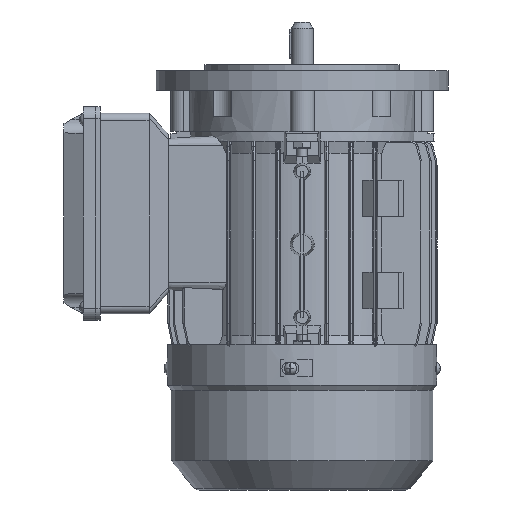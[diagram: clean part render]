
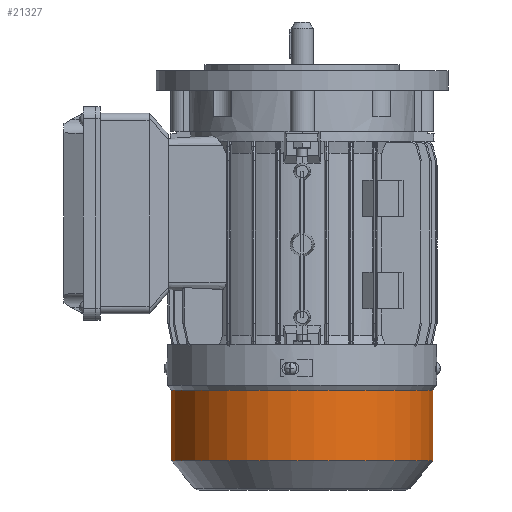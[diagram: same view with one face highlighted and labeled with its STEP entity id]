
A CAD part, left-side view. The second image highlights one B-rep face of the part: STEP entity #21327.
In plain terms, the highlighted cylindrical face has radius 54 mm (diameter 108 mm), a partial arc.
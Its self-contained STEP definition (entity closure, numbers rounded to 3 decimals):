
#1704 = ORIENTED_EDGE ( 'NONE', *, *, #12985, .F. ) ;
#1860 = ORIENTED_EDGE ( 'NONE', *, *, #10153, .T. ) ;
#1961 = ORIENTED_EDGE ( 'NONE', *, *, #10162, .F. ) ;
#2051 = ORIENTED_EDGE ( 'NONE', *, *, #12984, .T. ) ;
#2636 = FACE_OUTER_BOUND ( 'NONE', #22425, .T. ) ;
#2640 = CYLINDRICAL_SURFACE ( 'NONE', #32834, 54. ) ;
#4814 = CARTESIAN_POINT ( 'NONE',  ( 0., -22.172, -54. ) ) ;
#4819 = CARTESIAN_POINT ( 'NONE',  ( 0., 6.828, 54. ) ) ;
#5071 = CARTESIAN_POINT ( 'NONE',  ( 0., 6.828, -54. ) ) ;
#10153 = EDGE_CURVE ( 'NONE', #21842, #44841, #43176, .T. ) ;
#10162 = EDGE_CURVE ( 'NONE', #44839, #44989, #43189, .T. ) ;
#12984 = EDGE_CURVE ( 'NONE', #44839, #21842, #37903, .T. ) ;
#12985 = EDGE_CURVE ( 'NONE', #44989, #44841, #37905, .T. ) ;
#13763 = DIRECTION ( 'NONE',  ( 0., 0., 1. ) ) ;
#13765 = DIRECTION ( 'NONE',  ( 0., 1., 0. ) ) ;
#13767 = CARTESIAN_POINT ( 'NONE',  ( 0., 66., 0. ) ) ;
#21327 = ADVANCED_FACE ( 'NONE', ( #2636 ), #2640, .T. ) ;
#21842 = VERTEX_POINT ( 'NONE', #59775 ) ;
#22425 = EDGE_LOOP ( 'NONE', ( #1961, #2051, #1860, #1704 ) ) ;
#32534 = AXIS2_PLACEMENT_3D ( 'NONE', #40343, #40345, #40347 ) ;
#32535 = AXIS2_PLACEMENT_3D ( 'NONE', #40349, #40350, #40352 ) ;
#32834 = AXIS2_PLACEMENT_3D ( 'NONE', #13767, #13765, #13763 ) ;
#37308 = DIRECTION ( 'NONE',  ( 0., 1., 0. ) ) ;
#37378 = CARTESIAN_POINT ( 'NONE',  ( 0., 66., 54. ) ) ;
#37488 = CARTESIAN_POINT ( 'NONE',  ( 0., 66., -54. ) ) ;
#37491 = DIRECTION ( 'NONE',  ( 0., 1., 0. ) ) ;
#37903 = CIRCLE ( 'NONE', #32534, 54. ) ;
#37905 = CIRCLE ( 'NONE', #32535, 54. ) ;
#40343 = CARTESIAN_POINT ( 'NONE',  ( 0., -22.172, 0. ) ) ;
#40345 = DIRECTION ( 'NONE',  ( 0., 1., 0. ) ) ;
#40347 = DIRECTION ( 'NONE',  ( 0., 0., 1. ) ) ;
#40349 = CARTESIAN_POINT ( 'NONE',  ( 0., 6.828, 0. ) ) ;
#40350 = DIRECTION ( 'NONE',  ( 0., 1., 0. ) ) ;
#40352 = DIRECTION ( 'NONE',  ( 0., 0., 1. ) ) ;
#43176 = LINE ( 'NONE', #37378, #43178 ) ;
#43178 = VECTOR ( 'NONE', #37308, 1000. ) ;
#43189 = LINE ( 'NONE', #37488, #43192 ) ;
#43192 = VECTOR ( 'NONE', #37491, 1000. ) ;
#44839 = VERTEX_POINT ( 'NONE', #4814 ) ;
#44841 = VERTEX_POINT ( 'NONE', #4819 ) ;
#44989 = VERTEX_POINT ( 'NONE', #5071 ) ;
#59775 = CARTESIAN_POINT ( 'NONE',  ( 0., -22.172, 54. ) ) ;
